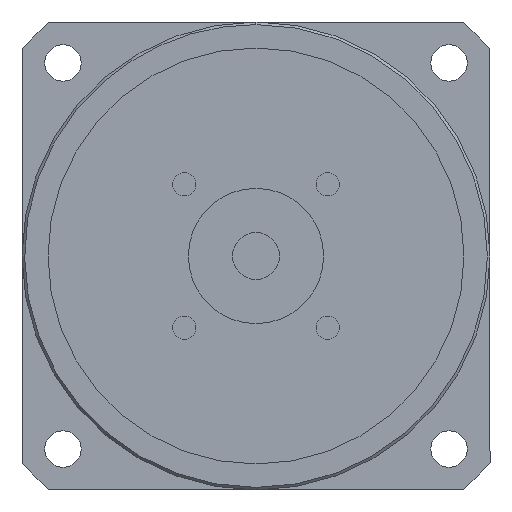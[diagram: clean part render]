
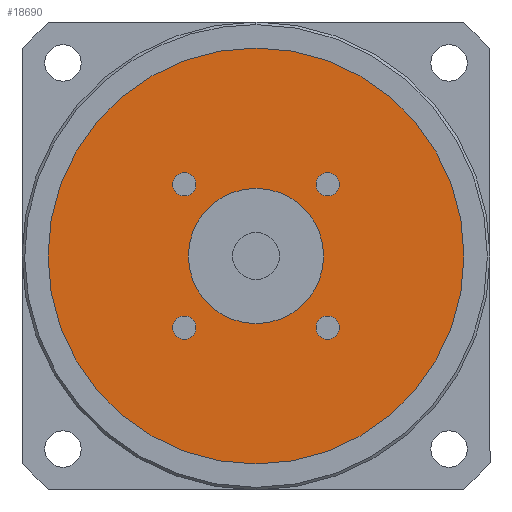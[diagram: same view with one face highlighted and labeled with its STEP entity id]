
A CAD part, left-side view. The second image highlights one B-rep face of the part: STEP entity #18690.
In plain terms, the highlighted planar face has unit normal (-1, 0, 0) as drawn and (0, 0, -1) by its records, which use the part's own axes.
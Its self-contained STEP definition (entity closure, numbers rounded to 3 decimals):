
#17360=CARTESIAN_POINT('',(40.,0.,-117.));
#17370=VERTEX_POINT('',#17360);
#17400=CARTESIAN_POINT('',(0.,0.,
-117.));
#17410=DIRECTION('',(0.,0.,1.));
#17420=DIRECTION('',(0.,-1.,0.));
#17430=AXIS2_PLACEMENT_3D('',#17400,#17410,#17420);
#17440=CIRCLE('',#17430,40.);
#17450=CARTESIAN_POINT('',(0.,-40.,-117.));
#17460=VERTEX_POINT('',#17450);
#17470=EDGE_CURVE('',#17460,#17370,#17440,.T.);
#17490=CARTESIAN_POINT('',(-40.,0.,-117.));
#17500=VERTEX_POINT('',#17490);
#17510=EDGE_CURVE('',#17500,#17460,#17440,.T.);
#17630=CARTESIAN_POINT('',(0.,0.,
-117.));
#17640=DIRECTION('',(0.,0.,1.));
#17650=DIRECTION('',(-1.,0.,0.));
#17660=AXIS2_PLACEMENT_3D('',#17630,#17640,#17650);
#17670=PLANE('',#17660);
#17680=CARTESIAN_POINT('',(13.789,-13.789,-117.));
#17690=DIRECTION('',(0.,0.,-1.));
#17700=DIRECTION('',(1.,0.,0.));
#17710=AXIS2_PLACEMENT_3D('',#17680,#17690,#17700);
#17720=CIRCLE('',#17710,2.25);
#17730=CARTESIAN_POINT('',(16.039,-13.789,-117.));
#17740=VERTEX_POINT('',#17730);
#17750=CARTESIAN_POINT('',(13.789,-16.039,-117.));
#17760=VERTEX_POINT('',#17750);
#17770=EDGE_CURVE('',#17740,#17760,#17720,.T.);
#17780=ORIENTED_EDGE('',*,*,#17770,.F.);
#17790=CARTESIAN_POINT('',(13.789,-11.539,-117.));
#17800=VERTEX_POINT('',#17790);
#17810=EDGE_CURVE('',#17760,#17800,#17720,.T.);
#17820=ORIENTED_EDGE('',*,*,#17810,.F.);
#17830=EDGE_CURVE('',#17800,#17740,#17720,.T.);
#17840=ORIENTED_EDGE('',*,*,#17830,.F.);
#17850=EDGE_LOOP('',(#17840,#17820,#17780));
#17860=FACE_BOUND('',#17850,.T.);
#17870=CARTESIAN_POINT('',(13.789,13.789,-117.));
#17880=DIRECTION('',(0.,0.,-1.));
#17890=DIRECTION('',(0.,1.,0.));
#17900=AXIS2_PLACEMENT_3D('',#17870,#17880,#17890);
#17910=CIRCLE('',#17900,2.25);
#17920=CARTESIAN_POINT('',(13.789,16.039,-117.));
#17930=VERTEX_POINT('',#17920);
#17940=CARTESIAN_POINT('',(16.039,13.789,-117.));
#17950=VERTEX_POINT('',#17940);
#17960=EDGE_CURVE('',#17930,#17950,#17910,.T.);
#17970=ORIENTED_EDGE('',*,*,#17960,.F.);
#17980=CARTESIAN_POINT('',(11.539,13.789,-117.));
#17990=VERTEX_POINT('',#17980);
#18000=EDGE_CURVE('',#17950,#17990,#17910,.T.);
#18010=ORIENTED_EDGE('',*,*,#18000,.F.);
#18020=EDGE_CURVE('',#17990,#17930,#17910,.T.);
#18030=ORIENTED_EDGE('',*,*,#18020,.F.);
#18040=EDGE_LOOP('',(#18030,#18010,#17970));
#18050=FACE_BOUND('',#18040,.T.);
#18060=CARTESIAN_POINT('',(-13.789,13.789,-117.));
#18070=DIRECTION('',(0.,0.,-1.));
#18080=DIRECTION('',(-1.,0.,0.));
#18090=AXIS2_PLACEMENT_3D('',#18060,#18070,#18080);
#18100=CIRCLE('',#18090,2.25);
#18110=CARTESIAN_POINT('',(-16.039,13.789,-117.));
#18120=VERTEX_POINT('',#18110);
#18130=CARTESIAN_POINT('',(-13.789,16.039,-117.));
#18140=VERTEX_POINT('',#18130);
#18150=EDGE_CURVE('',#18120,#18140,#18100,.T.);
#18160=ORIENTED_EDGE('',*,*,#18150,.F.);
#18170=CARTESIAN_POINT('',(-13.789,11.539,-117.));
#18180=VERTEX_POINT('',#18170);
#18190=EDGE_CURVE('',#18140,#18180,#18100,.T.);
#18200=ORIENTED_EDGE('',*,*,#18190,.F.);
#18210=EDGE_CURVE('',#18180,#18120,#18100,.T.);
#18220=ORIENTED_EDGE('',*,*,#18210,.F.);
#18230=EDGE_LOOP('',(#18220,#18200,#18160));
#18240=FACE_BOUND('',#18230,.T.);
#18250=CARTESIAN_POINT('',(-13.789,-13.789,-117.));
#18260=DIRECTION('',(0.,0.,-1.));
#18270=DIRECTION('',(0.,-1.,0.));
#18280=AXIS2_PLACEMENT_3D('',#18250,#18260,#18270);
#18290=CIRCLE('',#18280,2.25);
#18300=CARTESIAN_POINT('',(-13.789,-16.039,-117.));
#18310=VERTEX_POINT('',#18300);
#18320=CARTESIAN_POINT('',(-16.039,-13.789,-117.));
#18330=VERTEX_POINT('',#18320);
#18340=EDGE_CURVE('',#18310,#18330,#18290,.T.);
#18350=ORIENTED_EDGE('',*,*,#18340,.F.);
#18360=CARTESIAN_POINT('',(-11.539,-13.789,-117.));
#18370=VERTEX_POINT('',#18360);
#18380=EDGE_CURVE('',#18330,#18370,#18290,.T.);
#18390=ORIENTED_EDGE('',*,*,#18380,.F.);
#18400=EDGE_CURVE('',#18370,#18310,#18290,.T.);
#18410=ORIENTED_EDGE('',*,*,#18400,.F.);
#18420=EDGE_LOOP('',(#18410,#18390,#18350));
#18430=FACE_BOUND('',#18420,.T.);
#18440=ORIENTED_EDGE('',*,*,#17470,.F.);
#18450=EDGE_CURVE('',#17370,#17500,#17440,.T.);
#18460=ORIENTED_EDGE('',*,*,#18450,.F.);
#18470=ORIENTED_EDGE('',*,*,#17510,.F.);
#18480=EDGE_LOOP('',(#18470,#18460,#18440));
#18490=FACE_OUTER_BOUND('',#18480,.T.);
#18500=CARTESIAN_POINT('',(0.,0.,
-117.));
#18510=DIRECTION('',(0.,0.,1.));
#18520=DIRECTION('',(0.,-1.,0.));
#18530=AXIS2_PLACEMENT_3D('',#18500,#18510,#18520);
#18540=CIRCLE('',#18530,13.);
#18550=CARTESIAN_POINT('',(13.,0.,-117.));
#18560=VERTEX_POINT('',#18550);
#18570=CARTESIAN_POINT('',(-13.,0.,-117.));
#18580=VERTEX_POINT('',#18570);
#18590=EDGE_CURVE('',#18560,#18580,#18540,.T.);
#18600=ORIENTED_EDGE('',*,*,#18590,.T.);
#18610=CARTESIAN_POINT('',(0.,-13.,-117.));
#18620=VERTEX_POINT('',#18610);
#18630=EDGE_CURVE('',#18620,#18560,#18540,.T.);
#18640=ORIENTED_EDGE('',*,*,#18630,.T.);
#18650=EDGE_CURVE('',#18580,#18620,#18540,.T.);
#18660=ORIENTED_EDGE('',*,*,#18650,.T.);
#18670=EDGE_LOOP('',(#18660,#18640,#18600));
#18680=FACE_BOUND('',#18670,.T.);
#18690=ADVANCED_FACE('',(#17860,#18050,#18240,#18430,#18490,#18680),
#17670,.F.);
